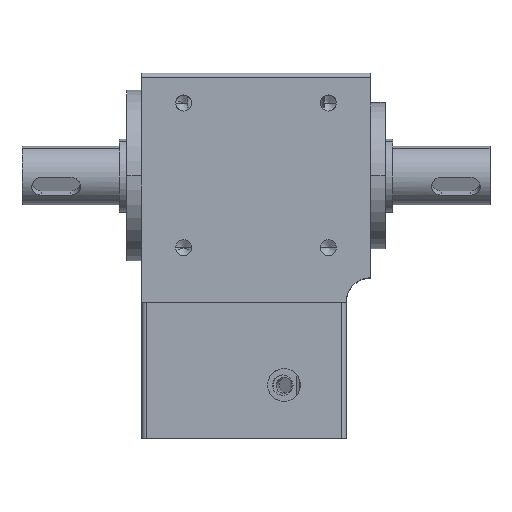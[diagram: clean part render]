
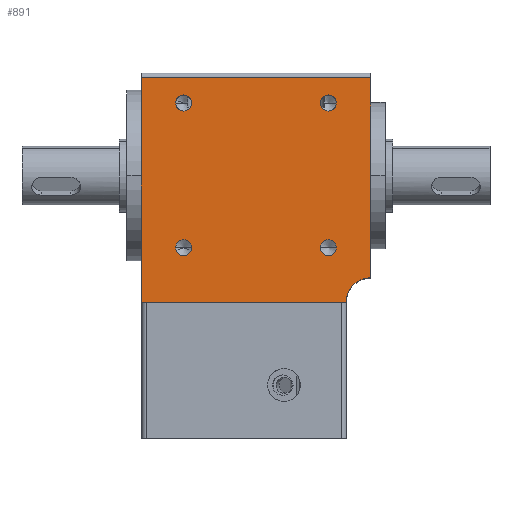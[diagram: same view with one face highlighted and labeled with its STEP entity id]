
A CAD part, top view. The second image highlights one B-rep face of the part: STEP entity #891.
In plain terms, the highlighted planar face has unit normal (0, 0, 1).
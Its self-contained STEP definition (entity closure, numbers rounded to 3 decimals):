
#515 = ORIENTED_EDGE ( 'NONE', *, *, #20328, .F. ) ;
#781 = FACE_BOUND ( 'NONE', #20469, .T. ) ;
#891 = ADVANCED_FACE ( 'NONE', ( #12813, #18890, #6819, #781, #24155 ), #26567, .F. ) ;
#960 = DIRECTION ( 'NONE',  ( 0., 0., 1. ) ) ;
#962 = CARTESIAN_POINT ( 'NONE',  ( 50., 22.5, 21. ) ) ;
#1076 = EDGE_CURVE ( 'NONE', #2734, #25637, #6221, .T. ) ;
#1264 = LINE ( 'NONE', #2736, #17954 ) ;
#1411 = AXIS2_PLACEMENT_3D ( 'NONE', #12335, #28242, #14615 ) ;
#1506 = VERTEX_POINT ( 'NONE', #2636 ) ;
#1616 = CARTESIAN_POINT ( 'NONE',  ( 41.349, -12.349, 21. ) ) ;
#1883 = CIRCLE ( 'NONE', #27502, 1.65 ) ;
#2138 = CIRCLE ( 'NONE', #21866, 5. ) ;
#2200 = EDGE_LOOP ( 'NONE', ( #6250, #7686, #22303, #27491, #515 ) ) ;
#2279 = EDGE_CURVE ( 'NONE', #27408, #13555, #5133, .T. ) ;
#2636 = CARTESIAN_POINT ( 'NONE',  ( 50., -18.5, 21. ) ) ;
#2734 = VERTEX_POINT ( 'NONE', #962 ) ;
#2736 = CARTESIAN_POINT ( 'NONE',  ( 53., -23.5, 21. ) ) ;
#2759 = EDGE_CURVE ( 'NONE', #20188, #15492, #21401, .T. ) ;
#3075 = CARTESIAN_POINT ( 'NONE',  ( 13.301, 17.349, 21. ) ) ;
#3449 = DIRECTION ( 'NONE',  ( 0., 0., 1. ) ) ;
#3919 = DIRECTION ( 'NONE',  ( 1., 0., 0. ) ) ;
#4018 = VERTEX_POINT ( 'NONE', #9505 ) ;
#4197 = EDGE_CURVE ( 'NONE', #13790, #18097, #18584, .T. ) ;
#4489 = CARTESIAN_POINT ( 'NONE',  ( 3., -23.5, 21. ) ) ;
#4642 = ORIENTED_EDGE ( 'NONE', *, *, #23161, .F. ) ;
#5122 = EDGE_LOOP ( 'NONE', ( #26773, #5948 ) ) ;
#5133 = CIRCLE ( 'NONE', #19278, 1.65 ) ;
#5135 = DIRECTION ( 'NONE',  ( 0., 0., 1. ) ) ;
#5211 = EDGE_CURVE ( 'NONE', #13555, #27408, #25622, .T. ) ;
#5515 = VECTOR ( 'NONE', #23167, 1000. ) ;
#5700 = CIRCLE ( 'NONE', #20529, 1.65 ) ;
#5744 = CARTESIAN_POINT ( 'NONE',  ( 41.349, 17.349, 21. ) ) ;
#5948 = ORIENTED_EDGE ( 'NONE', *, *, #2279, .F. ) ;
#6221 = LINE ( 'NONE', #11874, #5515 ) ;
#6250 = ORIENTED_EDGE ( 'NONE', *, *, #15093, .F. ) ;
#6346 = CARTESIAN_POINT ( 'NONE',  ( 39.699, -12.349, 21. ) ) ;
#6428 = VERTEX_POINT ( 'NONE', #9384 ) ;
#6819 = FACE_BOUND ( 'NONE', #11963, .T. ) ;
#7207 = ORIENTED_EDGE ( 'NONE', *, *, #4197, .F. ) ;
#7686 = ORIENTED_EDGE ( 'NONE', *, *, #1076, .T. ) ;
#8029 = DIRECTION ( 'NONE',  ( 1., 0., 0. ) ) ;
#8084 = EDGE_CURVE ( 'NONE', #9015, #6428, #11131, .T. ) ;
#8401 = CARTESIAN_POINT ( 'NONE',  ( 41.349, -12.349, 21. ) ) ;
#8548 = CARTESIAN_POINT ( 'NONE',  ( 11.651, 17.349, 21. ) ) ;
#9015 = VERTEX_POINT ( 'NONE', #26861 ) ;
#9384 = CARTESIAN_POINT ( 'NONE',  ( 13.301, -12.349, 21. ) ) ;
#9474 = DIRECTION ( 'NONE',  ( 0., -1., 0. ) ) ;
#9505 = CARTESIAN_POINT ( 'NONE',  ( 45., -23.5, 21. ) ) ;
#9516 = LINE ( 'NONE', #18520, #26919 ) ;
#10139 = CARTESIAN_POINT ( 'NONE',  ( 42.999, -12.349, 21. ) ) ;
#10405 = EDGE_CURVE ( 'NONE', #23780, #25637, #24530, .T. ) ;
#10650 = DIRECTION ( 'NONE',  ( 1., 0., 0. ) ) ;
#10794 = CARTESIAN_POINT ( 'NONE',  ( 41.349, 17.349, 21. ) ) ;
#10800 = CARTESIAN_POINT ( 'NONE',  ( 53., -23.5, 21. ) ) ;
#10810 = DIRECTION ( 'NONE',  ( 1., 0., 0. ) ) ;
#10871 = CIRCLE ( 'NONE', #25858, 1.65 ) ;
#11131 = CIRCLE ( 'NONE', #28677, 1.65 ) ;
#11254 = CARTESIAN_POINT ( 'NONE',  ( 39.699, 17.349, 21. ) ) ;
#11874 = CARTESIAN_POINT ( 'NONE',  ( 53., 22.5, 21. ) ) ;
#11963 = EDGE_LOOP ( 'NONE', ( #19485, #25201 ) ) ;
#12335 = CARTESIAN_POINT ( 'NONE',  ( 11.651, 17.349, 21. ) ) ;
#12813 = FACE_BOUND ( 'NONE', #5122, .T. ) ;
#13058 = DIRECTION ( 'NONE',  ( 1., 0., 0. ) ) ;
#13065 = DIRECTION ( 'NONE',  ( -1., 0., 0. ) ) ;
#13505 = AXIS2_PLACEMENT_3D ( 'NONE', #10800, #26676, #13065 ) ;
#13555 = VERTEX_POINT ( 'NONE', #26852 ) ;
#13790 = VERTEX_POINT ( 'NONE', #10139 ) ;
#14521 = CARTESIAN_POINT ( 'NONE',  ( 11.651, -12.349, 21. ) ) ;
#14615 = DIRECTION ( 'NONE',  ( 1., 0., 0. ) ) ;
#15093 = EDGE_CURVE ( 'NONE', #2734, #1506, #9516, .T. ) ;
#15492 = VERTEX_POINT ( 'NONE', #24622 ) ;
#15589 = EDGE_LOOP ( 'NONE', ( #7207, #26267 ) ) ;
#16290 = DIRECTION ( 'NONE',  ( -1., 0., 0. ) ) ;
#16482 = ORIENTED_EDGE ( 'NONE', *, *, #2759, .F. ) ;
#16817 = DIRECTION ( 'NONE',  ( 1., 0., 0. ) ) ;
#17001 = CARTESIAN_POINT ( 'NONE',  ( 50., -23.5, 21. ) ) ;
#17463 = DIRECTION ( 'NONE',  ( 0., 0., 1. ) ) ;
#17954 = VECTOR ( 'NONE', #16290, 1000. ) ;
#18097 = VERTEX_POINT ( 'NONE', #6346 ) ;
#18520 = CARTESIAN_POINT ( 'NONE',  ( 50., -23.5, 21. ) ) ;
#18529 = VECTOR ( 'NONE', #27648, 1000. ) ;
#18584 = CIRCLE ( 'NONE', #18949, 1.65 ) ;
#18707 = CARTESIAN_POINT ( 'NONE',  ( 11.651, -12.349, 21. ) ) ;
#18890 = FACE_BOUND ( 'NONE', #15589, .T. ) ;
#18949 = AXIS2_PLACEMENT_3D ( 'NONE', #8401, #24234, #10650 ) ;
#19263 = EDGE_CURVE ( 'NONE', #18097, #13790, #5700, .T. ) ;
#19278 = AXIS2_PLACEMENT_3D ( 'NONE', #5744, #21601, #8029 ) ;
#19308 = DIRECTION ( 'NONE',  ( 1., 0., 0. ) ) ;
#19485 = ORIENTED_EDGE ( 'NONE', *, *, #28445, .F. ) ;
#20188 = VERTEX_POINT ( 'NONE', #3075 ) ;
#20328 = EDGE_CURVE ( 'NONE', #1506, #4018, #2138, .T. ) ;
#20469 = EDGE_LOOP ( 'NONE', ( #16482, #4642 ) ) ;
#20529 = AXIS2_PLACEMENT_3D ( 'NONE', #1616, #17463, #3919 ) ;
#20967 = DIRECTION ( 'NONE',  ( 1., 0., 0. ) ) ;
#21390 = CARTESIAN_POINT ( 'NONE',  ( 3., 22.5, 21. ) ) ;
#21401 = CIRCLE ( 'NONE', #1411, 1.65 ) ;
#21601 = DIRECTION ( 'NONE',  ( 0., 0., 1. ) ) ;
#21790 = AXIS2_PLACEMENT_3D ( 'NONE', #10794, #26669, #13058 ) ;
#21866 = AXIS2_PLACEMENT_3D ( 'NONE', #17001, #3449, #19308 ) ;
#22303 = ORIENTED_EDGE ( 'NONE', *, *, #10405, .F. ) ;
#23161 = EDGE_CURVE ( 'NONE', #15492, #20188, #10871, .T. ) ;
#23167 = DIRECTION ( 'NONE',  ( -1., 0., 0. ) ) ;
#23780 = VERTEX_POINT ( 'NONE', #4489 ) ;
#24155 = FACE_OUTER_BOUND ( 'NONE', #2200, .T. ) ;
#24234 = DIRECTION ( 'NONE',  ( 0., 0., 1. ) ) ;
#24306 = EDGE_CURVE ( 'NONE', #4018, #23780, #1264, .T. ) ;
#24392 = DIRECTION ( 'NONE',  ( 0., 0., 1. ) ) ;
#24530 = LINE ( 'NONE', #25338, #18529 ) ;
#24622 = CARTESIAN_POINT ( 'NONE',  ( 10.001, 17.349, 21. ) ) ;
#25201 = ORIENTED_EDGE ( 'NONE', *, *, #8084, .F. ) ;
#25338 = CARTESIAN_POINT ( 'NONE',  ( 3., -23.5, 21. ) ) ;
#25622 = CIRCLE ( 'NONE', #21790, 1.65 ) ;
#25637 = VERTEX_POINT ( 'NONE', #21390 ) ;
#25858 = AXIS2_PLACEMENT_3D ( 'NONE', #8548, #24392, #10810 ) ;
#26267 = ORIENTED_EDGE ( 'NONE', *, *, #19263, .F. ) ;
#26567 = PLANE ( 'NONE',  #13505 ) ;
#26669 = DIRECTION ( 'NONE',  ( 0., 0., 1. ) ) ;
#26676 = DIRECTION ( 'NONE',  ( 0., 0., -1. ) ) ;
#26773 = ORIENTED_EDGE ( 'NONE', *, *, #5211, .F. ) ;
#26852 = CARTESIAN_POINT ( 'NONE',  ( 42.999, 17.349, 21. ) ) ;
#26861 = CARTESIAN_POINT ( 'NONE',  ( 10.001, -12.349, 21. ) ) ;
#26919 = VECTOR ( 'NONE', #9474, 1000. ) ;
#27408 = VERTEX_POINT ( 'NONE', #11254 ) ;
#27491 = ORIENTED_EDGE ( 'NONE', *, *, #24306, .F. ) ;
#27502 = AXIS2_PLACEMENT_3D ( 'NONE', #14521, #960, #16817 ) ;
#27648 = DIRECTION ( 'NONE',  ( 0., 1., 0. ) ) ;
#28242 = DIRECTION ( 'NONE',  ( 0., 0., 1. ) ) ;
#28445 = EDGE_CURVE ( 'NONE', #6428, #9015, #1883, .T. ) ;
#28677 = AXIS2_PLACEMENT_3D ( 'NONE', #18707, #5135, #20967 ) ;
